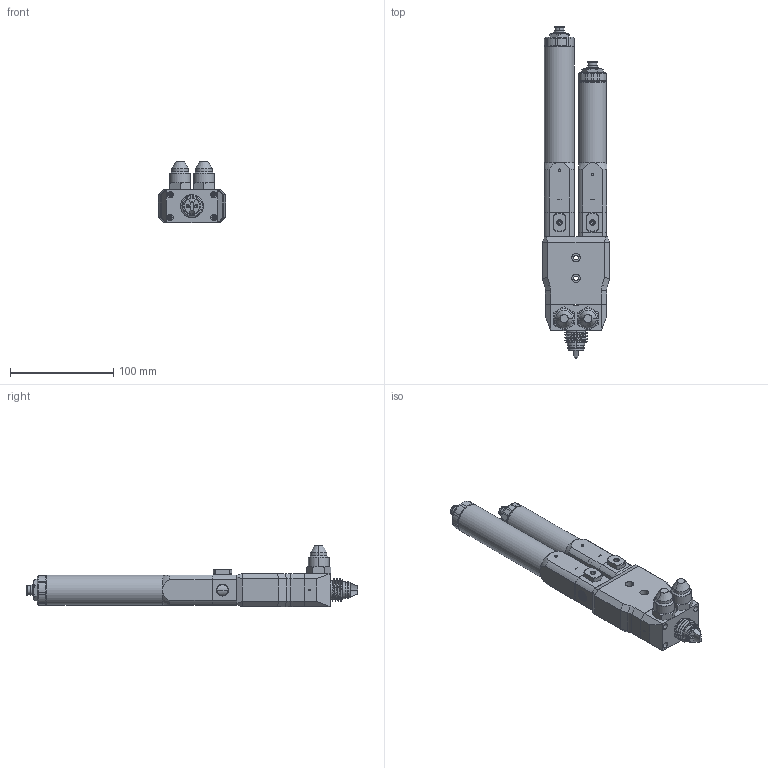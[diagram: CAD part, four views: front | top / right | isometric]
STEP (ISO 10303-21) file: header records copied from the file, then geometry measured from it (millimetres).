
FILE_DESCRIPTION (( 'STEP AP214' ), '1' );
FILE_NAME ('PDP-500-050CA.STEP', '2024-10-11T12:10:18', ( '' ), ( '' ), 'SwSTEP 2.0', 'SolidWorks 2024', '' );
FILE_SCHEMA (( 'AUTOMOTIVE_DESIGN' ));
Length unit declared in the file: millimetre
Products named in the file (1): PDP-500-050CA
Bounding box: 65 x 321 x 59.3 mm (x, y, z)
Volume: 416941.3 mm3; surface area: 101073.6 mm2
Topology: 12 solids, 12 shells, 1241 faces, 3032 edges, 1907 vertices
Faces by surface type: cylinder 459, plane 442, cone 299, bspline 25, torus 8, sphere 8
Full cylindrical faces by diameter (mm): 27 x1, 29 x1
Entity records: 57976 total; most frequent: CARTESIAN_POINT 29172, ORIENTED_EDGE 5992, DIRECTION 5944, EDGE_CURVE 2996, AXIS2_PLACEMENT_3D 2367, VERTEX_POINT 1907, EDGE_LOOP 1407, FACE_OUTER_BOUND 1243
